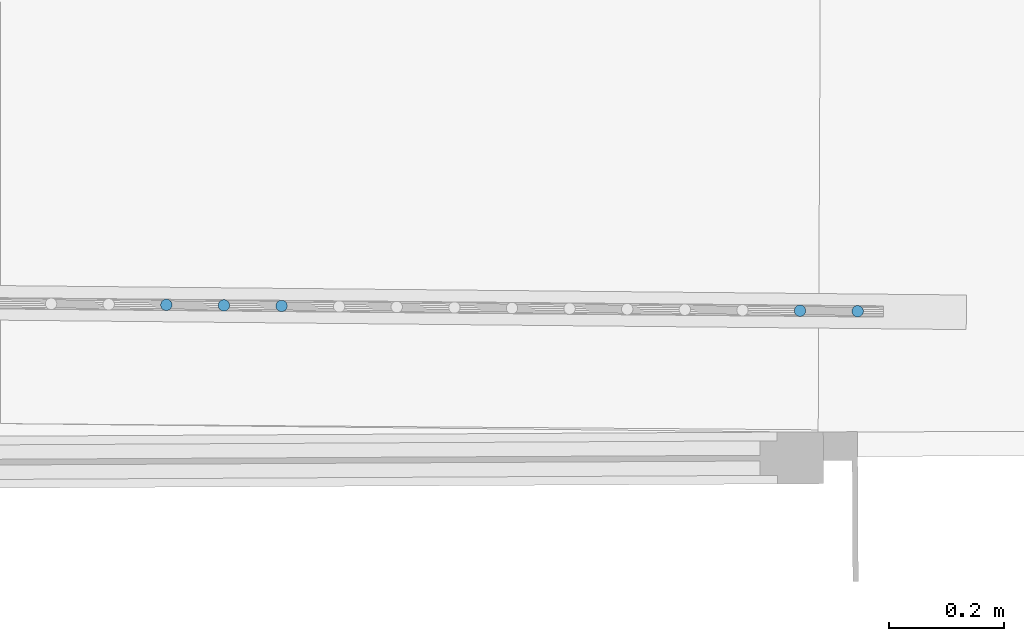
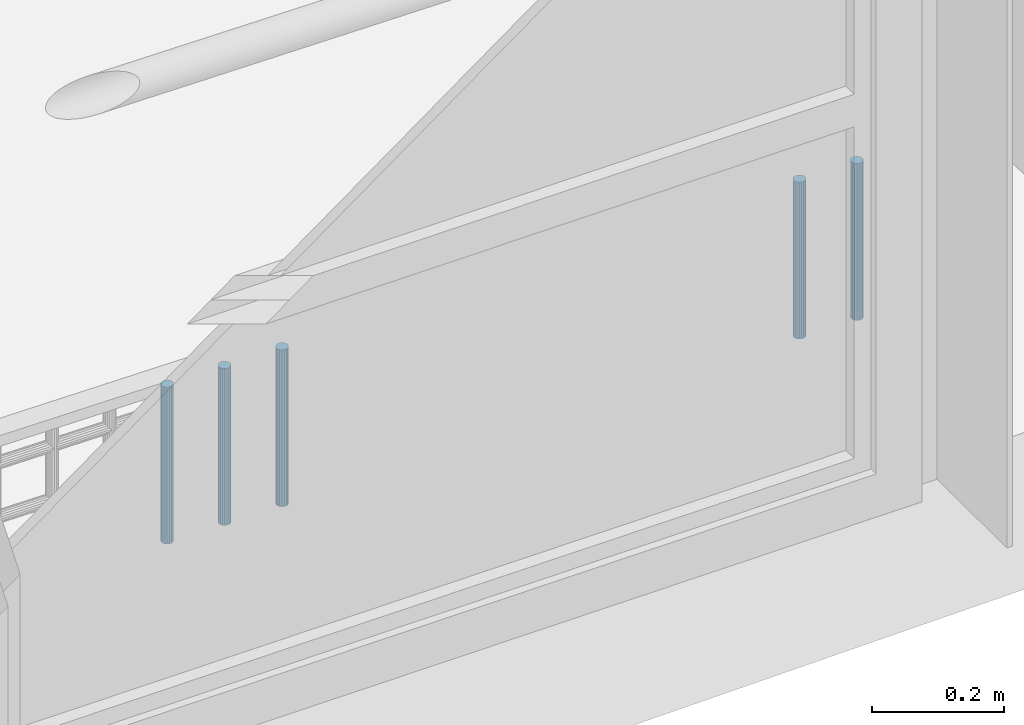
# One storey, part 31 of 72: 5 members, 1 element without a shape of its own.
"""IFC2X3 building model written with IfcOpenShell, lengths in centimetres."""

from ifc_helpers import new_model, entity, si_unit, converted_unit, direction, frame, origin, origin_with_axes, place, context, subcontext, project, spatial, faceted_brep, material, type_object, element, aggregate, save


model = new_model("IFC2X3")

# Units and contexts
model_context = context("Model", 3, precision=0.0001, world=origin(), true_north=direction((0.225632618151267, 0.974212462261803, 0.0)))
body_context = subcontext(model_context, "Body", "Model", "MODEL_VIEW")
ifc_project = project(units=[si_unit("LENGTHUNIT", "METRE", prefix="CENTI"), si_unit("AREAUNIT", "SQUARE_METRE", prefix="CENTI"), si_unit("VOLUMEUNIT", "CUBIC_METRE", prefix="CENTI"), converted_unit("PLANEANGLEUNIT", "DEGREE", entity("IfcRatioMeasure", 0.0174532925), si_unit("PLANEANGLEUNIT", "RADIAN"), dimensions=[0, 0, 0, 0, 0, 0, 0])], contexts=[model_context])

# Site, building, storey
site_placement = place(None, origin_with_axes())
site = spatial("IfcSite", under=ifc_project, at=site_placement, Name="Default Site", CompositionType="ELEMENT")
building_placement = place(site_placement, origin_with_axes())
building = spatial("IfcBuilding", under=site, at=building_placement, Name="Default Building", CompositionType="ELEMENT")
storey_placement = place(building_placement, frame((0.0, 0.0, 853.910374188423), z_axis=(0.0, 0.0, 1.0), x_axis=(1.0, 0.0, 0.0)))
storey = spatial("IfcBuildingStorey", under=building, at=storey_placement, Name="Niveau 2", CompositionType="ELEMENT", Elevation=853.910374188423)

# Assembly, members
building_element_proxy_type = type_object("IfcBuildingElementProxyType", Name="Type Object", PredefinedType="NOTDEFINED")
assembly_placement = place(storey_placement, frame((1081.02208703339, -852.418210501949, 11.9999999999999), z_axis=(0.0, 0.0, 1.0), x_axis=(-0.999957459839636, 0.00922380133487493, 0.0)))
assembly = element("IfcElementAssembly", 1, at=assembly_placement, inside=storey, type_object=building_element_proxy_type, Name="Panneau 1702017", ObjectType="Precast panel", PredefinedType="USERDEFINED")
ifc_material = material(Name="Aluminium satiné")
member_1_placement = place(assembly_placement, frame((7.43969231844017, 0.342020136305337, 31.000000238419), z_axis=(0.0, 0.0, 1.0), x_axis=(0.499998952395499, -0.866026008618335, 0.0)))
member_1 = element("IfcMember", 2, at=member_1_placement, material=ifc_material, Name="4294967189", context=body_context, shape_type="Brep", body=[
    faceted_brep([(-3.12944115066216e-13, -4.30211422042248e-14, -5.55111512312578e-15), (-0.347296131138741, -9.15933995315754e-14, -5.55111512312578e-15), (-0.673647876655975, -0.118782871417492, -5.55111512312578e-15), (-0.939692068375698, -0.342020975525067, -5.55111512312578e-15), (-1.11333977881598, -0.642788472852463, -5.55111512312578e-15), (-1.17364691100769, -0.984809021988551, -5.55111512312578e-15), (-1.11333900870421, -1.32682889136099, -5.55111512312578e-15), (-0.939690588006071, -1.62759638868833, -5.55111512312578e-15), (-0.673645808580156, -1.85083373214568, -5.55111512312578e-15), (-0.347293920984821, -1.96961580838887, -5.55111512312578e-15), (2.58268185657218e-06, -1.96961516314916, -5.55111512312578e-15), (0.326354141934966, -1.85083261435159, -5.55111512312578e-15), (0.592398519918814, -1.62759418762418, -5.55111512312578e-15), (0.7660462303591, -1.32682669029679, -5.55111512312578e-15), (0.82635317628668, -0.984806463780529, -5.55111512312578e-15), (0.766045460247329, -0.642786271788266, -5.55111512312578e-15), (0.592396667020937, -0.342019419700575, -5.55111512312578e-15), (0.326352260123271, -0.118781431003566, -5.55111512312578e-15), (0.326352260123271, -0.118781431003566, -29.0000002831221), (0.592396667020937, -0.342019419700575, -29.0000002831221), (0.766045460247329, -0.642786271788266, -29.0000002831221), (0.82635317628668, -0.984806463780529, -29.0000002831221), (0.7660462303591, -1.32682669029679, -29.0000002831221), (0.592398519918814, -1.62759418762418, -29.0000002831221), (0.326354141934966, -1.85083261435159, -29.0000002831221), (2.58268185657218e-06, -1.96961516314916, -29.0000002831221), (-0.347293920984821, -1.96961580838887, -29.0000002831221), (-0.673645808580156, -1.85083373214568, -29.0000002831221), (-0.939690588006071, -1.62759638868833, -29.0000002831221), (-1.11333900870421, -1.32682889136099, -29.0000002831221), (-1.17364691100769, -0.984809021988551, -29.0000002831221), (-1.11333977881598, -0.642788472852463, -29.0000002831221), (-0.939692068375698, -0.342020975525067, -29.0000002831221), (-0.673647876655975, -0.118782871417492, -29.0000002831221), (-0.347296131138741, -9.15933995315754e-14, -29.0000002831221), (-3.12944115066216e-13, -4.30211422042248e-14, -29.0000002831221), (0.592397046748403, -0.342018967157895, -5.5511151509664e-15), (0.592397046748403, -0.342018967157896, -29.0000002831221), (0.326352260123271, -0.118781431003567, -29.0000002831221), (0.766045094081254, -0.642786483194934, -5.5511151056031e-15), (0.766045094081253, -0.642786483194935, -29.0000002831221), (0.592396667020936, -0.342019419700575, -29.0000002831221), (0.82635327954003, -0.984806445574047, -5.55111512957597e-15), (0.826353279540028, -0.984806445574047, -29.0000002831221), (0.766045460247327, -0.642786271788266, -29.0000002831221), (0.766046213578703, -1.32682668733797, -5.55111512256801e-15), (0.766046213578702, -1.32682668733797, -29.0000002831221), (0.826353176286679, -0.984806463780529, -29.0000002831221), (0.326354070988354, -1.85083252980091, -5.55111512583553e-15), (0.326354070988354, -1.85083252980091, -29.0000002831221), (2.62872162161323e-06, -1.96961528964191, -5.55111511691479e-15), (2.62872162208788e-06, -1.96961528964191, -29.0000002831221), (0.326354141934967, -1.85083261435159, -29.0000002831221), (-0.347293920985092, -1.96961558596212, -5.55111513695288e-15), (-0.347293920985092, -1.96961558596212, -29.0000002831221), (-0.67364585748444, -1.85083386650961, -5.55111511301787e-15), (-0.673645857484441, -1.85083386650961, -29.0000002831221), (-0.347293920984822, -1.96961580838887, -29.0000002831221), (-0.939690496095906, -1.6275962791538, -5.5511151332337e-15), (-0.939690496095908, -1.6275962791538, -29.0000002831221), (-0.673645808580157, -1.85083373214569, -29.0000002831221), (-1.11333920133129, -1.32682900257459, -5.55111510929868e-15), (-1.11333920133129, -1.32682900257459, -29.0000002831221), (-0.939690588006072, -1.62759638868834, -29.0000002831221), (-1.17364677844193, -0.984808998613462, -5.55111513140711e-15), (-1.17364677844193, -0.984808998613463, -29.0000002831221), (-1.11333988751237, -0.642788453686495, -5.55111512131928e-15), (-1.11333988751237, -0.642788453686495, -29.0000002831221), (-0.939692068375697, -0.342020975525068, -5.55111512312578e-15), (-0.939692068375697, -0.342020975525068, -29.0000002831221), (-0.673647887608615, -0.118782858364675, -5.55111512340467e-15), (-0.673647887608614, -0.118782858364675, -29.0000002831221), (-0.347296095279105, -9.85232689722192e-08, -5.55111511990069e-15), (-0.347296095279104, -9.85232698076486e-08, -29.0000002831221), (-0.673647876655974, -0.118782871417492, -29.0000002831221), (-8.27693279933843e-13, 4.22812412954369e-07, -5.55111514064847e-15), (-8.27693278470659e-13, 4.22812411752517e-07, -29.0000002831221), (-0.347296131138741, -9.27952512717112e-14, -29.0000002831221), (0.326352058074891, -0.118781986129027, -5.55111509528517e-15), (0.326352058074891, -0.118781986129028, -29.0000002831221), (-3.13411550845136e-13, -4.43054163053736e-14, -29.0000002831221)], [[[0, 1, 2, 3, 4, 5, 6, 7, 8, 9, 10, 11, 12, 13, 14, 15, 16, 17]], [[18, 19, 20, 21, 22, 23, 24, 25, 26, 27, 28, 29, 30, 31, 32, 33, 34, 35]], [[17, 36, 37, 38]], [[16, 39, 40, 41]], [[15, 42, 43, 44]], [[14, 45, 46, 47]], [[13, 12, 23, 22]], [[12, 48, 49, 23]], [[11, 50, 51, 52]], [[10, 53, 54, 25]], [[9, 55, 56, 57]], [[8, 58, 59, 60]], [[7, 61, 62, 63]], [[6, 64, 65, 29]], [[5, 66, 67, 30]], [[4, 68, 69, 31]], [[3, 70, 71, 69]], [[2, 72, 73, 74]], [[1, 75, 76, 77]], [[0, 78, 79, 80]]]),
])
member_2_placement = place(assembly_placement, frame((17.4396932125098, 0.342020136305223, 31.000000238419), z_axis=(0.0, 0.0, 1.0), x_axis=(0.500002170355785, -0.866024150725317, 0.0)))
member_2 = element("IfcMember", 3, at=member_2_placement, material=ifc_material, Name="4294967188", context=body_context, shape_type="Brep", body=[
    faceted_brep([(-2.58126853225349e-13, -2.60902410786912e-13, 1.66533453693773e-13), (-0.347296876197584, -1.9151347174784e-13, 1.66533453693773e-13), (-0.673648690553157, -0.1187810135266, 1.66533453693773e-13), (-0.939693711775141, -0.342018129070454, 1.66533453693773e-13), (-1.11334291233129, -0.64278562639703, 1.66533453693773e-13), (-1.17365112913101, -0.984805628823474, 1.66533453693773e-13), (-1.11334431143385, -1.32682539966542, 1.66533453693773e-13), (-0.939696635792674, -1.62759289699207, 1.66533453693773e-13), (-0.673653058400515, -1.85083187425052, 1.66533453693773e-13), (-0.347301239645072, -1.96961451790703, 1.66533453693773e-13), (-5.10850903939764e-06, -1.96961580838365, 1.66533453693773e-13), (0.326346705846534, -1.85083479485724, 1.66533453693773e-13), (0.592391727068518, -1.62759767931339, 1.66533453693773e-13), (0.766040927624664, -1.32683018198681, 1.66533453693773e-13), (0.826349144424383, -0.984810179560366, 1.66533453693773e-13), (0.766042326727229, -0.642790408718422, 1.66533453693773e-13), (0.592395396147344, -0.342021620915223, 1.66533453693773e-13), (0.326351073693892, -0.118783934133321, 1.66533453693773e-13), (0.326351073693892, -0.118783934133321, -29.0000002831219), (0.592395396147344, -0.342021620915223, -29.0000002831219), (0.766042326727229, -0.642790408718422, -29.0000002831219), (0.826349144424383, -0.984810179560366, -29.0000002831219), (0.766040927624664, -1.32683018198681, -29.0000002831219), (0.592391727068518, -1.62759767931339, -29.0000002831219), (0.326346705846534, -1.85083479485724, -29.0000002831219), (-5.10850903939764e-06, -1.96961580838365, -29.0000002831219), (-0.347301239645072, -1.96961451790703, -29.0000002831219), (-0.673653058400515, -1.85083187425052, -29.0000002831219), (-0.939696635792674, -1.62759289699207, -29.0000002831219), (-1.11334431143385, -1.32682539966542, -29.0000002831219), (-1.17365112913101, -0.984805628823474, -29.0000002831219), (-1.11334291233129, -0.64278562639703, -29.0000002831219), (-0.939693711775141, -0.342018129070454, -29.0000002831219), (-0.673648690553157, -0.1187810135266, -29.0000002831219), (-0.347296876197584, -1.9151347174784e-13, -29.0000002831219), (-2.58126853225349e-13, -2.60902410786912e-13, -29.0000002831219), (0.592394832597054, -0.342022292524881, 1.66533453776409e-13), (0.592394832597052, -0.342022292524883, -29.0000002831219), (0.326351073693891, -0.118783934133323, -29.0000002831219), (0.766043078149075, -0.642789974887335, 1.66533453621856e-13), (0.766043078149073, -0.642789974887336, -29.0000002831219), (0.592395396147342, -0.342021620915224, -29.0000002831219), (0.826348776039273, -0.984810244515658, 1.66533453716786e-13), (0.826348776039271, -0.984810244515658, -29.0000002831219), (0.766042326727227, -0.642790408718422, -29.0000002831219), (0.766040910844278, -1.32683017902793, 1.66533453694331e-13), (0.766040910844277, -1.32683017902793, -29.0000002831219), (0.592391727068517, -1.62759767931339, 1.66533453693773e-13), (0.592391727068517, -1.62759767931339, -29.0000002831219), (0.326346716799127, -1.8508348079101, 1.66533453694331e-13), (0.326346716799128, -1.8508348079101, -29.0000002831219), (0.592391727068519, -1.62759767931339, -29.0000002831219), (-4.98057117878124e-06, -1.9696161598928, 1.66533453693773e-13), (-4.98057117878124e-06, -1.9696161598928, -29.0000002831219), (-0.347301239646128, -1.96961494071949, 1.66533453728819e-13), (-0.347301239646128, -1.96961494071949, -29.0000002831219), (-5.10850903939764e-06, -1.96961580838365, -29.0000002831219), (-0.673652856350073, -1.85083131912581, 1.66533453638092e-13), (-0.673652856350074, -1.85083131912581, -29.0000002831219), (-0.347301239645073, -1.96961451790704, -29.0000002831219), (-0.939697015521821, -1.62759334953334, 1.66533453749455e-13), (-0.939697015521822, -1.62759334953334, -29.0000002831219), (-0.673653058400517, -1.85083187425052, -29.0000002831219), (-1.11334394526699, -1.32682518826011, 1.66533453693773e-13), (-1.11334394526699, -1.32682518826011, -29.0000002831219), (-1.1736507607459, -0.984805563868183, 1.66533453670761e-13), (-1.1736507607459, -0.984805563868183, -29.0000002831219), (-1.1133428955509, -0.642785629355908, 1.66533453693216e-13), (-1.1133428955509, -0.642785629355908, -29.0000002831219), (-1.17365112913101, -0.984805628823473, -29.0000002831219), (-0.939693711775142, -0.342018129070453, 1.66533453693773e-13), (-0.939693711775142, -0.342018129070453, -29.0000002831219), (-0.673648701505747, -0.118781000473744, 1.66533453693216e-13), (-0.673648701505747, -0.118781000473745, -29.0000002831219), (-0.939693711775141, -0.342018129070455, -29.0000002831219), (-0.347297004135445, 3.51508960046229e-07, 1.66533453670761e-13), (-0.347297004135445, 3.51508958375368e-07, -29.0000002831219), (-0.673648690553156, -0.118781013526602, -29.0000002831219), (-2.42585227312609e-12, -8.67666214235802e-07, 1.66533453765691e-13), (-2.42585227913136e-12, -8.67666216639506e-07, -29.0000002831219), (-0.347296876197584, -1.93917175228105e-13, -29.0000002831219), (0.326351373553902, -0.118783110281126, 1.66533453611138e-13), (0.326351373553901, -0.118783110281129, -29.0000002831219), (-2.59061734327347e-13, -2.63470955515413e-13, -29.0000002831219)], [[[0, 1, 2, 3, 4, 5, 6, 7, 8, 9, 10, 11, 12, 13, 14, 15, 16, 17]], [[18, 19, 20, 21, 22, 23, 24, 25, 26, 27, 28, 29, 30, 31, 32, 33, 34, 35]], [[17, 36, 37, 38]], [[16, 39, 40, 41]], [[15, 42, 43, 44]], [[14, 45, 46, 21]], [[13, 47, 48, 22]], [[12, 49, 50, 51]], [[11, 52, 53, 24]], [[10, 54, 55, 56]], [[9, 57, 58, 59]], [[8, 60, 61, 62]], [[7, 63, 64, 28]], [[6, 65, 66, 29]], [[5, 67, 68, 69]], [[4, 70, 71, 31]], [[3, 72, 73, 74]], [[2, 75, 76, 77]], [[1, 78, 79, 80]], [[0, 81, 82, 83]]]),
])
member_3_placement = place(assembly_placement, frame((107.439696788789, 0.342020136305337, 31.000000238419), z_axis=(0.0, 0.0, 1.0), x_axis=(0.500008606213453, -0.866020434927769, 0.0)))
member_3 = element("IfcMember", 4, at=member_3_placement, material=ifc_material, Name="4294967179", context=body_context, shape_type="Brep", body=[
    faceted_brep([(-5.44009282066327e-13, -1.99840144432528e-13, 1.77635683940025e-13), (-0.347298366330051, -1.99840144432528e-13, 1.77635683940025e-13), (-0.673648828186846, -0.118774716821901, 1.77635683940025e-13), (-0.939699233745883, -0.342016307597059, 1.77635683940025e-13), (-1.11334843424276, -0.642778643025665, 1.77635683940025e-13), (-1.17366291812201, -0.9848046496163, 1.77635683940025e-13), (-1.11335640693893, -1.32682099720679, 1.77635683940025e-13), (-0.939713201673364, -1.62759365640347, 1.77635683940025e-13), (-0.673671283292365, -1.8508346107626, 1.77635683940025e-13), (-0.347320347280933, -1.96961967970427, 1.77635683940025e-13), (-2.19809514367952e-05, -1.96961967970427, 1.77635683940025e-13), (0.326328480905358, -1.85084496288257, 1.77635683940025e-13), (0.592378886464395, -1.62760337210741, 1.77635683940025e-13), (0.766028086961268, -1.32684103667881, 1.77635683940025e-13), (0.826342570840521, -0.984815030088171, 1.77635683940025e-13), (0.766036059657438, -0.642798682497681, 1.77635683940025e-13), (0.592392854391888, -0.342026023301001, 1.77635683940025e-13), (0.326350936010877, -0.118785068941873, 1.77635683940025e-13), (0.326350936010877, -0.118785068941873, -29.0000002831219), (0.592392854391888, -0.342026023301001, -29.0000002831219), (0.766036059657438, -0.642798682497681, -29.0000002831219), (0.826342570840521, -0.984815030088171, -29.0000002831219), (0.766028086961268, -1.32684103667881, -29.0000002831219), (0.592378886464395, -1.62760337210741, -29.0000002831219), (0.326328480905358, -1.85084496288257, -29.0000002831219), (-2.19809514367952e-05, -1.96961967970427, -29.0000002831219), (-0.347320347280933, -1.96961967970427, -29.0000002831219), (-0.673671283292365, -1.8508346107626, -29.0000002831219), (-0.939713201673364, -1.62759365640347, -29.0000002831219), (-1.11335640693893, -1.32682099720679, -29.0000002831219), (-1.17366291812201, -0.9848046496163, -29.0000002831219), (-1.11334843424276, -0.642778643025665, -29.0000002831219), (-0.939699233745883, -0.342016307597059, -29.0000002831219), (-0.673648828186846, -0.118774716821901, -29.0000002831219), (-0.347298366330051, -1.99840144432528e-13, -29.0000002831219), (-5.44009282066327e-13, -1.99840144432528e-13, -29.0000002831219), (0.592393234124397, -0.342025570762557, 1.77635683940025e-13), (0.592393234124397, -0.342025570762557, -29.0000002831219), (0.766039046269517, -0.642796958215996, 1.77635683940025e-13), (0.766039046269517, -0.642796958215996, -29.0000002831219), (0.826339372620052, -0.984815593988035, 1.77635683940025e-13), (0.826339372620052, -0.984815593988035, -29.0000002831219), (0.766030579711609, -1.32684147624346, 1.77635683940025e-13), (0.766030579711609, -1.32684147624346, -29.0000002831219), (0.592378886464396, -1.62760337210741, 1.77635683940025e-13), (0.592378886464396, -1.62760337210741, -29.0000002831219), (0.326326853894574, -1.85084302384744, 1.77635683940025e-13), (0.326326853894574, -1.85084302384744, -29.0000002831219), (-2.0870253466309e-05, -1.96962273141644, 1.77635683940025e-13), (-2.0870253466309e-05, -1.96962273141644, -29.0000002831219), (-0.347320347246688, -1.9696162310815, 1.77635683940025e-13), (-0.347320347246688, -1.9696162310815, -29.0000002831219), (-0.673671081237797, -1.85083405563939, 1.77635683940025e-13), (-0.673671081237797, -1.85083405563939, -29.0000002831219), (-0.939713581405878, -1.62759410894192, 1.77635683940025e-13), (-0.939713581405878, -1.62759410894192, -29.0000002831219), (-1.113359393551, -1.32682272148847, 1.77635683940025e-13), (-1.113359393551, -1.32682272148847, -29.0000002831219), (-1.17365971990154, -0.984804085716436, 1.77635683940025e-13), (-1.17365971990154, -0.984804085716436, -29.0000002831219), (-1.1133509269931, -0.642778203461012, 1.77635683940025e-13), (-1.1133509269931, -0.642778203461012, -29.0000002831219), (-0.939699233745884, -0.342016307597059, 1.77635683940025e-13), (-0.939699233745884, -0.342016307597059, -29.0000002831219), (-0.673647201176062, -0.118776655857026, 1.77635683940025e-13), (-0.673647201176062, -0.118776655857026, -29.0000002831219), (-0.347299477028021, 3.05171197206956e-06, 1.77635683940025e-13), (-0.347299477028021, 3.05171197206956e-06, -29.0000002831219), (-3.47883367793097e-11, -3.44862296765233e-06, 1.77635683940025e-13), (-3.47883367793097e-11, -3.44862296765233e-06, -29.0000002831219), (0.326350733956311, -0.118785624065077, 1.77635683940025e-13), (0.326350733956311, -0.118785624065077, -29.0000002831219)], [[[0, 1, 2, 3, 4, 5, 6, 7, 8, 9, 10, 11, 12, 13, 14, 15, 16, 17]], [[18, 19, 20, 21, 22, 23, 24, 25, 26, 27, 28, 29, 30, 31, 32, 33, 34, 35]], [[17, 36, 37, 18]], [[16, 38, 39, 19]], [[15, 40, 41, 20]], [[14, 42, 43, 21]], [[13, 44, 45, 22]], [[12, 46, 47, 23]], [[11, 48, 49, 24]], [[10, 50, 51, 25]], [[9, 52, 53, 26]], [[8, 54, 55, 27]], [[7, 56, 57, 28]], [[6, 58, 59, 29]], [[5, 60, 61, 30]], [[4, 62, 63, 31]], [[3, 64, 65, 32]], [[2, 66, 67, 33]], [[1, 68, 69, 34]], [[0, 70, 71, 35]]]),
])
member_4_placement = place(assembly_placement, frame((117.439687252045, 0.342020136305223, 31.000000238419), z_axis=(0.0, 0.0, 1.0), x_axis=(0.499982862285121, -0.866035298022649, 0.0)))
member_4 = element("IfcMember", 5, at=member_4_placement, material=ifc_material, Name="4294967178", context=body_context, shape_type="Brep", body=[
    faceted_brep([(-2.66453525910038e-13, -8.88178419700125e-14, -1.11022302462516e-14), (-0.347292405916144, -4.44089209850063e-14, -1.11022302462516e-14), (-0.673645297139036, -0.118794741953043, -1.11022302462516e-14), (-0.939683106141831, -0.342033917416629, -1.11022302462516e-14), (-1.11332336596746, -0.642801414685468, -1.11022302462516e-14), (-1.17362768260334, -0.984829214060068, -1.11022302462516e-14), (-1.11331100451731, -1.32684376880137, -1.11022302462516e-14), (-0.939658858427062, -1.62761126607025, -1.11022302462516e-14), (-0.673610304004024, -1.85084431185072, -1.11022302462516e-14), (-0.347255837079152, -1.9696196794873, -1.11022302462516e-14), (4.25290968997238e-05, -1.96960935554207, -1.11022302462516e-14), (0.326389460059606, -1.85082493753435, -1.11022302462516e-14), (0.592433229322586, -1.62757543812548, -1.11022302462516e-14), (0.766073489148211, -1.32680794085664, -1.11022302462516e-14), (0.82637184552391, -0.984790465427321, -1.11022302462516e-14), (0.76606112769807, -0.642765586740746, -1.11022302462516e-14), (0.592403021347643, -0.342008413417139, -1.11022302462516e-14), (0.326354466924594, -0.11877536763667, -1.11022302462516e-14), (0.326354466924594, -0.11877536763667, -29.0000002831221), (0.592403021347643, -0.342008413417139, -29.0000002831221), (0.76606112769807, -0.642765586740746, -29.0000002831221), (0.82637184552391, -0.984790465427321, -29.0000002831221), (0.766073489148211, -1.32680794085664, -29.0000002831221), (0.592433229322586, -1.62757543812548, -29.0000002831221), (0.326389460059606, -1.85082493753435, -29.0000002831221), (4.25290968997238e-05, -1.96960935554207, -29.0000002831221), (-0.347255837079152, -1.9696196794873, -29.0000002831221), (-0.673610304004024, -1.85084431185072, -29.0000002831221), (-0.939658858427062, -1.62761126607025, -29.0000002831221), (-1.11331100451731, -1.32684376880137, -29.0000002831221), (-1.17362768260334, -0.984829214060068, -29.0000002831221), (-1.11332336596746, -0.642801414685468, -29.0000002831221), (-0.939683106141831, -0.342033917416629, -29.0000002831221), (-0.673645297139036, -0.118794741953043, -29.0000002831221), (-0.347292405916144, -4.44089209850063e-14, -29.0000002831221), (-2.66453525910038e-13, -8.88178419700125e-14, -29.0000002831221), (0.592403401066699, -0.342007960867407, -1.11022302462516e-14), (0.592403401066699, -0.342007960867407, -29.0000002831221), (0.76605517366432, -0.642769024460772, -1.11022302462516e-14), (0.76605517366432, -0.642769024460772, -29.0000002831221), (0.826376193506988, -0.984789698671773, -1.11022302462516e-14), (0.826376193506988, -0.984789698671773, -29.0000002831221), (0.766071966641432, -1.3268076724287, -1.11022302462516e-14), (0.766071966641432, -1.3268076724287, -29.0000002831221), (0.592433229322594, -1.62757543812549, -1.11022302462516e-14), (0.592433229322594, -1.62757543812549, -29.0000002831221), (0.326387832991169, -1.85082299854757, -1.11022302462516e-14), (0.326387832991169, -1.85082299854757, -29.0000002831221), (4.36398855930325e-05, -1.96961240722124, -1.11022302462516e-14), (4.36398855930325e-05, -1.96961240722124, -29.0000002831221), (-0.347255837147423, -1.96961623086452, -1.11022302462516e-14), (-0.347255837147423, -1.96961623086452, -29.0000002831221), (-0.67361010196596, -1.85084375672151, -1.11022302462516e-14), (-0.67361010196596, -1.85084375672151, -29.0000002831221), (-0.939659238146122, -1.62761171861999, -1.11022302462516e-14), (-0.939659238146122, -1.62761171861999, -29.0000002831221), (-1.11331399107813, -1.32684549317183, -1.11022302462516e-14), (-1.11331399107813, -1.32684549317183, -29.0000002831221), (-1.17362448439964, -0.984828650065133, -1.11022302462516e-14), (-1.17362448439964, -0.984828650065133, -29.0000002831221), (-1.11332585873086, -0.642800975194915, -1.11022302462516e-14), (-1.11332585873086, -0.642800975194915, -29.0000002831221), (-0.939683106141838, -0.342033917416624, -1.11022302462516e-14), (-0.939683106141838, -0.342033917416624, -29.0000002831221), (-0.673646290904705, -0.118793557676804, -1.11022302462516e-14), (-0.673646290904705, -0.118793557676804, -29.0000002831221), (-0.34729089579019, -4.14878184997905e-06, -1.11022302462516e-14), (-0.34729089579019, -4.14878184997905e-06, -29.0000002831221), (-1.36372040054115e-10, 6.87520440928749e-06, -1.11022302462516e-14), (-1.36372040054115e-10, 6.87520440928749e-06, -29.0000002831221), (0.326354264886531, -0.118775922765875, -1.11022302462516e-14), (0.326354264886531, -0.118775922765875, -29.0000002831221)], [[[0, 1, 2, 3, 4, 5, 6, 7, 8, 9, 10, 11, 12, 13, 14, 15, 16, 17]], [[18, 19, 20, 21, 22, 23, 24, 25, 26, 27, 28, 29, 30, 31, 32, 33, 34, 35]], [[17, 36, 37, 18]], [[16, 38, 39, 19]], [[15, 40, 41, 20]], [[14, 42, 43, 21]], [[13, 44, 45, 22]], [[12, 46, 47, 23]], [[11, 48, 49, 24]], [[10, 50, 51, 25]], [[9, 52, 53, 26]], [[8, 54, 55, 27]], [[7, 56, 57, 28]], [[6, 58, 59, 29]], [[5, 60, 61, 30]], [[4, 62, 63, 31]], [[3, 64, 65, 32]], [[2, 66, 67, 33]], [[1, 68, 69, 34]], [[0, 70, 71, 35]]]),
])
member_5_placement = place(assembly_placement, frame((127.439689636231, 0.342020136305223, 31.000000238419), z_axis=(0.0, 0.0, 1.0), x_axis=(0.499982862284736, -0.866035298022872, 0.0)))
member_5 = element("IfcMember", 6, at=member_5_placement, material=ifc_material, Name="4294967177", context=body_context, shape_type="Brep", body=[
    faceted_brep([(-1.4432899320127e-13, -2.22044604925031e-14, 1.83186799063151e-13), (-0.347292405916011, -1.33226762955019e-13, 1.83186799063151e-13), (-0.673645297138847, -0.118794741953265, 1.83186799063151e-13), (-0.939683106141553, -0.342033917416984, 1.83186799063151e-13), (-1.11332932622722, -0.642811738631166, 1.83186799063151e-13), (-1.17362768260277, -0.984829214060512, 1.83186799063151e-13), (-1.11331100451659, -1.32684376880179, 1.83186799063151e-13), (-0.939658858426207, -1.62761126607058, 1.83186799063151e-13), (-0.673610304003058, -1.85084431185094, 1.83186799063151e-13), (-0.347255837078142, -1.96961967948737, 1.83186799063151e-13), (4.25290979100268e-05, -1.969609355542, 1.83186799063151e-13), (0.326389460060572, -1.85082493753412, 1.83186799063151e-13), (0.592427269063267, -1.62758576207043, 1.83186799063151e-13), (0.766073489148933, -1.32680794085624, 1.83186799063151e-13), (0.826371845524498, -0.984790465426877, 1.83186799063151e-13), (0.766061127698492, -0.642765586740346, 1.83186799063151e-13), (0.59240302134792, -0.342008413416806, 1.83186799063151e-13), (0.326354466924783, -0.118775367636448, 1.83186799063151e-13), (0.326354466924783, -0.118775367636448, -29.0000002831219), (0.59240302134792, -0.342008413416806, -29.0000002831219), (0.766061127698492, -0.642765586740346, -29.0000002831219), (0.826371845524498, -0.984790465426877, -29.0000002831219), (0.766073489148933, -1.32680794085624, -29.0000002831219), (0.592427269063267, -1.62758576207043, -29.0000002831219), (0.326389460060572, -1.85082493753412, -29.0000002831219), (4.25290979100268e-05, -1.969609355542, -29.0000002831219), (-0.347255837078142, -1.96961967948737, -29.0000002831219), (-0.673610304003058, -1.85084431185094, -29.0000002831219), (-0.939658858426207, -1.62761126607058, -29.0000002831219), (-1.11331100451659, -1.32684376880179, -29.0000002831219), (-1.17362768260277, -0.984829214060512, -29.0000002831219), (-1.11332932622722, -0.642811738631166, -29.0000002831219), (-0.939683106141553, -0.342033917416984, -29.0000002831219), (-0.673645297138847, -0.118794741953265, -29.0000002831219), (-0.347292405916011, -1.33226762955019e-13, -29.0000002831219), (-1.4432899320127e-13, -2.22044604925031e-14, -29.0000002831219), (0.592403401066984, -0.342007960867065, 1.83186799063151e-13), (0.592403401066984, -0.342007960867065, -29.0000002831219), (0.766055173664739, -0.642769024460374, 1.83186799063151e-13), (0.766055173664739, -0.642769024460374, -29.0000002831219), (0.82637619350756, -0.984789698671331, 1.83186799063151e-13), (0.82637619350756, -0.984789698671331, -29.0000002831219), (0.766071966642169, -1.32680767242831, 1.83186799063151e-13), (0.766071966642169, -1.32680767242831, -29.0000002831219), (0.592427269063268, -1.62758576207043, 1.83186799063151e-13), (0.592427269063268, -1.62758576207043, -29.0000002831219), (0.326390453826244, -1.85082612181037, 1.83186799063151e-13), (0.326390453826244, -1.85082612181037, -29.0000002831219), (4.36398866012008e-05, -1.96961240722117, 1.83186799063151e-13), (4.36398866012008e-05, -1.96961240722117, -29.0000002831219), (-0.347255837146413, -1.96961623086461, 1.83186799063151e-13), (-0.347255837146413, -1.96961623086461, -29.0000002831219), (-0.673610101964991, -1.85084375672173, 1.83186799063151e-13), (-0.673610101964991, -1.85084375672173, -29.0000002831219), (-0.939659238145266, -1.62761171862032, 1.83186799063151e-13), (-0.939659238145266, -1.62761171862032, -29.0000002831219), (-1.11331399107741, -1.32684549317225, 1.83186799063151e-13), (-1.11331399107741, -1.32684549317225, -29.0000002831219), (-1.17362448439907, -0.984828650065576, 1.83186799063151e-13), (-1.17362448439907, -0.984828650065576, -29.0000002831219), (-1.11332780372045, -0.642812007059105, 1.83186799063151e-13), (-1.11332780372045, -0.642812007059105, -29.0000002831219), (-0.939683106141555, -0.342033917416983, 1.83186799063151e-13), (-0.939683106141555, -0.342033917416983, -29.0000002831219), (-0.673646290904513, -0.11879355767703, 1.83186799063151e-13), (-0.673646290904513, -0.11879355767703, -29.0000002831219), (-0.347290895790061, -4.14878192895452e-06, 1.83186799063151e-13), (-0.347290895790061, -4.14878192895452e-06, -29.0000002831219), (-1.36249918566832e-10, 6.87520447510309e-06, 1.83186799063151e-13), (-1.36249918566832e-10, 6.87520447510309e-06, -29.0000002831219), (0.326354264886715, -0.118775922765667, 1.83186799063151e-13), (0.326354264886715, -0.118775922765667, -29.0000002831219)], [[[0, 1, 2, 3, 4, 5, 6, 7, 8, 9, 10, 11, 12, 13, 14, 15, 16, 17]], [[18, 19, 20, 21, 22, 23, 24, 25, 26, 27, 28, 29, 30, 31, 32, 33, 34, 35]], [[17, 36, 37, 18]], [[16, 38, 39, 19]], [[15, 40, 41, 20]], [[14, 42, 43, 21]], [[13, 44, 45, 22]], [[12, 46, 47, 23]], [[11, 48, 49, 24]], [[10, 50, 51, 25]], [[9, 52, 53, 26]], [[8, 54, 55, 27]], [[7, 56, 57, 28]], [[6, 58, 59, 29]], [[5, 60, 61, 30]], [[4, 62, 63, 31]], [[3, 64, 65, 32]], [[2, 66, 67, 33]], [[1, 68, 69, 34]], [[0, 70, 71, 35]]]),
])
aggregate(assembly, [member_1, member_2, member_3, member_4, member_5])

save(model, "model.ifc")
